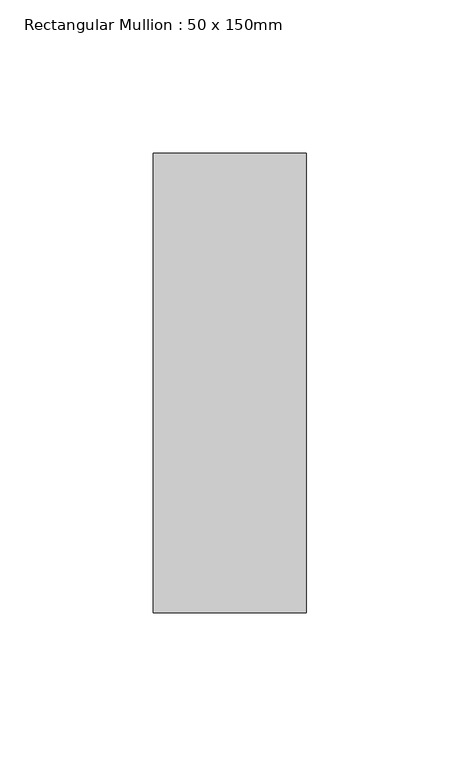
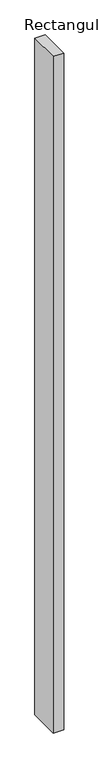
"""IFC4 building model written with IfcOpenShell, lengths in millimetres: member geometry, Rectangular Mullion : 50 x 150mm."""

from ifc_helpers import new_model, si_unit, frame, origin, place, context, project, spatial, polyline, outline, extrude, source, transform, mapped, element, save


def rectangular_mullion_50_x_150mm_57f910c3(model_context):
    return source(origin(), model_context, "Body", "SweptSolid", [
        extrude(outline(polyline([(25.0, 75.0), (25.0, -75.0), (-25.0, -75.0), (-25.0, 75.0), (25.0, 75.0)])), frame((0.0, 0.0, -3400.0), z_axis=(0.0, 0.0, 1.0), x_axis=(1.0, 0.0, 0.0)), (0.0, 0.0, 1.0), 3400.0),
    ])


if __name__ == "__main__":
    model = new_model("IFC4")
    model_context = context("Model", 3, world=origin())
    ifc_project = project(units=[si_unit("LENGTHUNIT", "METRE", prefix="MILLI")], contexts=[model_context])
    site = spatial("IfcSite", under=ifc_project)
    building = spatial("IfcBuilding", under=site)
    placement = place(None, origin())
    rectangular_mullion_50_x_150mm_shape = rectangular_mullion_50_x_150mm_57f910c3(model_context)
    element("IfcMember", 1, ObjectType="Rectangular Mullion : 50 x 150mm", at=placement, inside=building, context=model_context, shape_type="MappedRepresentation", body=[
        mapped(rectangular_mullion_50_x_150mm_shape, transform((0.0, 0.0, 0.0), x_axis=(1.0, 0.0, 0.0), y_axis=(0.0, 1.0, 0.0), z_axis=(0.0, 0.0, 1.0))),
    ])
    save(model, "model.ifc")
